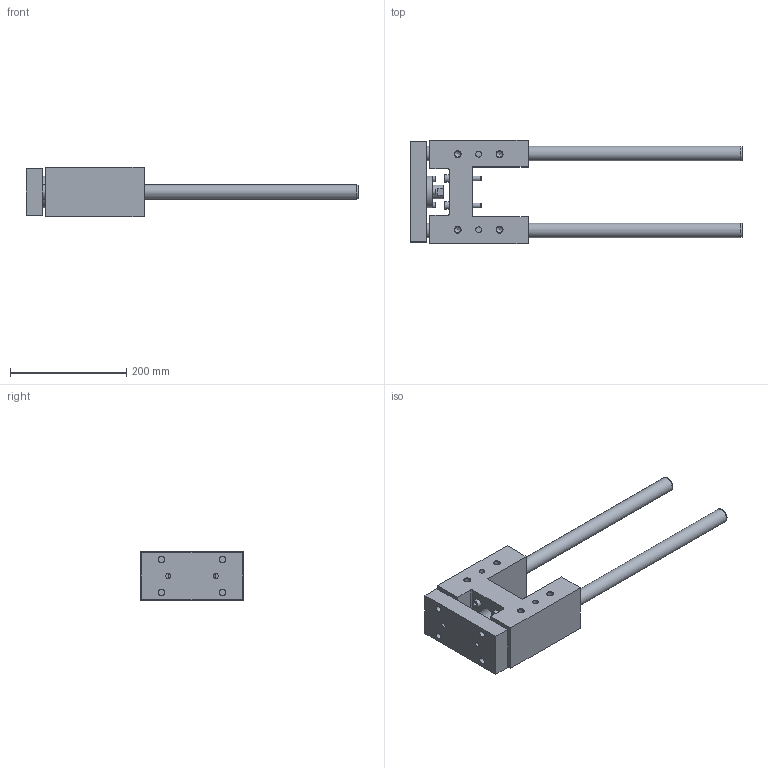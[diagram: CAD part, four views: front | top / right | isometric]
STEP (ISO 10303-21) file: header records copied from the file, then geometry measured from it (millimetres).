
FILE_DESCRIPTION( ( 'STEP AP214' ), '1' );
FILE_NAME( 'U:/Etudes/Top Solid/BIBLIO 3D AVM/TOP/PNEUMATIQUE/GUIDAGES/Type 32 (en H)/R_Renforcée/326R6_30.step', '2005-05-27T09:02:51', ( ' ' ), ( ' ' ), 'XStep 1.0', ' ', ' ' );
FILE_SCHEMA( ( 'automotive_design' ) );
Length unit declared in the file: metre
Products named in the file (2): 1; 2
Bounding box: 571 x 178 x 85 mm (x, y, z)
Volume: 2342278.6 mm3; surface area: 305062.7 mm2
Topology: 2 solids, 7 shells, 209 faces, 484 edges, 321 vertices
Faces by surface type: plane 118, cylinder 70, cone 21
Full cylindrical faces by diameter (mm): 6 x8, 6.5 x4, 8 x10, 8.376 x4, 9 x4, 10 x6, 10.106 x8, 11 x4, 13 x4, 14.376 x2, 18 x4, 24 x1, 25 x4, 26 x1, 34 x1, 37 x1, 40 x1, 55 x1
Entity records: 7089 total; most frequent: CARTESIAN_POINT 1103, DIRECTION 900, ORIENTED_EDGE 696, EDGE_LOOP 358, AXIS2_PLACEMENT_3D 349, EDGE_CURVE 348, VERTEX_POINT 280, FACE_OUTER_BOUND 277
